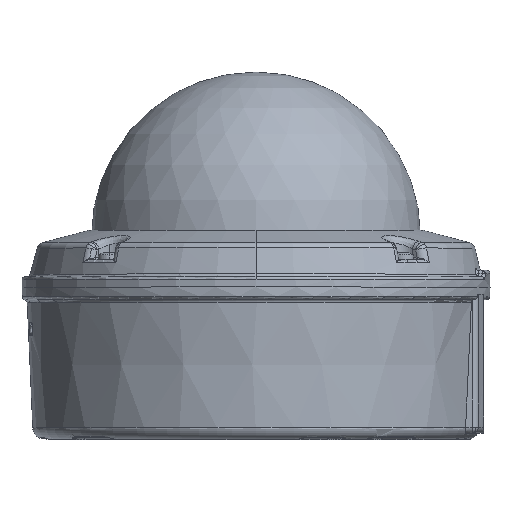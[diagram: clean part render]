
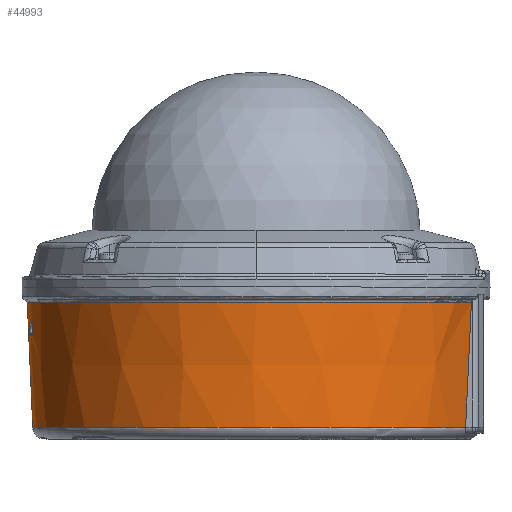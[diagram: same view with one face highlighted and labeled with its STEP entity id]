
A CAD part, top view. The second image highlights one B-rep face of the part: STEP entity #44993.
In plain terms, the highlighted conical face has half-angle 2.5 degrees and reference radius 73.495 mm.
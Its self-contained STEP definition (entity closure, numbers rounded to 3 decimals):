
#31260=CARTESIAN_POINT('',(-68.174,27.,25.));
#31261=CARTESIAN_POINT('',(-68.384,22.494,25.));
#31262=CARTESIAN_POINT('',(-68.802,13.483,25.));
#31263=CARTESIAN_POINT('',(-69.43,-0.032,25.));
#31264=CARTESIAN_POINT('',(-69.848,-9.04,25.));
#31265=CARTESIAN_POINT('',(-70.057,-13.544,25.));
#31267=DIRECTION('',(-0.044,0.999,0.));
#31268=VECTOR('',#31267,40.757);
#31269=CARTESIAN_POINT('',(74.384,-13.544,0.));
#31270=LINE('',#31269,#31268);
#31271=CARTESIAN_POINT('',(73.005,-6.956,
12.671));
#31272=CARTESIAN_POINT('',(72.985,-6.956,
12.783));
#31273=CARTESIAN_POINT('',(72.945,-6.939,
13.004));
#31274=CARTESIAN_POINT('',(72.882,-6.856,
13.336));
#31275=CARTESIAN_POINT('',(72.817,-6.718,
13.651));
#31276=CARTESIAN_POINT('',(72.755,-6.531,
13.937));
#31277=CARTESIAN_POINT('',(72.697,-6.301,
14.185));
#31278=CARTESIAN_POINT('',(72.644,-6.035,
14.389));
#31279=CARTESIAN_POINT('',(72.6,-5.742,
14.545));
#31280=CARTESIAN_POINT('',(72.565,-5.429,
14.65));
#31281=CARTESIAN_POINT('',(72.54,-5.106,
14.702));
#31282=CARTESIAN_POINT('',(72.526,-4.779,
14.699));
#31283=CARTESIAN_POINT('',(72.523,-4.458,
14.644));
#31284=CARTESIAN_POINT('',(72.531,-4.149,
14.536));
#31285=CARTESIAN_POINT('',(72.55,-3.861,
14.378));
#31286=CARTESIAN_POINT('',(72.579,-3.601,
14.174));
#31287=CARTESIAN_POINT('',(72.616,-3.375,
13.928));
#31288=CARTESIAN_POINT('',(72.662,-3.191,
13.643));
#31289=CARTESIAN_POINT('',(72.714,-3.056,
13.332));
#31290=CARTESIAN_POINT('',(72.77,-2.974,
13.003));
#31291=CARTESIAN_POINT('',(72.808,-2.956,
12.782));
#31292=CARTESIAN_POINT('',(72.827,-2.956,
12.671));
#31294=CARTESIAN_POINT('',(73.529,-2.956,
7.603));
#31295=CARTESIAN_POINT('',(73.541,-2.956,
7.492));
#31296=CARTESIAN_POINT('',(73.564,-2.974,
7.272));
#31297=CARTESIAN_POINT('',(73.599,-3.055,
6.943));
#31298=CARTESIAN_POINT('',(73.634,-3.191,
6.63));
#31299=CARTESIAN_POINT('',(73.667,-3.376,
6.345));
#31300=CARTESIAN_POINT('',(73.698,-3.603,
6.097));
#31301=CARTESIAN_POINT('',(73.726,-3.867,
5.892));
#31302=CARTESIAN_POINT('',(73.751,-4.16,
5.733));
#31303=CARTESIAN_POINT('',(73.773,-4.474,
5.626));
#31304=CARTESIAN_POINT('',(73.792,-4.8,
5.572));
#31305=CARTESIAN_POINT('',(73.806,-5.131,
5.574));
#31306=CARTESIAN_POINT('',(73.816,-5.456,
5.63));
#31307=CARTESIAN_POINT('',(73.821,-5.768,
5.74));
#31308=CARTESIAN_POINT('',(73.821,-6.058,
5.9));
#31309=CARTESIAN_POINT('',(73.816,-6.319,
6.106));
#31310=CARTESIAN_POINT('',(73.805,-6.544,
6.354));
#31311=CARTESIAN_POINT('',(73.788,-6.726,
6.639));
#31312=CARTESIAN_POINT('',(73.765,-6.859,
6.949));
#31313=CARTESIAN_POINT('',(73.737,-6.939,
7.275));
#31314=CARTESIAN_POINT('',(73.716,-6.956,
7.493));
#31315=CARTESIAN_POINT('',(73.705,-6.956,
7.602));
#31336=CARTESIAN_POINT('',(0.,-13.544,0.));
#31337=DIRECTION('',(0.,-1.,0.));
#31338=DIRECTION('',(1.,0.,0.));
#31339=AXIS2_PLACEMENT_3D('',#31336,#31337,#31338);
#32821=CARTESIAN_POINT('',(0.,27.174,0.));
#32822=DIRECTION('',(0.,1.,0.));
#32823=DIRECTION('',(-0.939,0.,0.344));
#32824=AXIS2_PLACEMENT_3D('',#32821,#32822,#32823);
#32904=CARTESIAN_POINT('',(-68.174,27.,25.));
#32905=CARTESIAN_POINT('',(-68.173,27.019,25.));
#32906=CARTESIAN_POINT('',(-68.172,27.058,
24.999));
#32907=CARTESIAN_POINT('',(-68.17,27.116,
24.997));
#32908=CARTESIAN_POINT('',(-68.169,27.155,
24.994));
#32909=CARTESIAN_POINT('',(-68.169,27.174,
24.992));
#37935=CARTESIAN_POINT('',(0.,-2.956,0.));
#37936=DIRECTION('',(0.,-1.,0.));
#37937=DIRECTION('',(0.995,0.,0.103));
#37938=AXIS2_PLACEMENT_3D('',#37935,#37936,#37937);
#37960=CARTESIAN_POINT('',(0.,-6.956,0.));
#37961=DIRECTION('',(0.,1.,0.));
#37962=DIRECTION('',(0.985,0.,0.171));
#37963=AXIS2_PLACEMENT_3D('',#37960,#37961,#37962);
#42681=VERTEX_POINT('',#31260);
#42682=VERTEX_POINT('',#31265);
#42683=VERTEX_POINT('',#32909);
#42684=CARTESIAN_POINT('',(72.606,27.174,0.));
#42685=VERTEX_POINT('',#42684);
#42686=CARTESIAN_POINT('',(74.384,-13.544,0.));
#42687=VERTEX_POINT('',#42686);
#42688=CARTESIAN_POINT('',(73.005,-6.956,
12.671));
#42689=CARTESIAN_POINT('',(73.705,-6.956,
7.602));
#42690=VERTEX_POINT('',#42688);
#42691=VERTEX_POINT('',#42689);
#42692=VERTEX_POINT('',#31294);
#42693=CARTESIAN_POINT('',(72.827,-2.956,
12.671));
#42694=VERTEX_POINT('',#42693);
#44966=CARTESIAN_POINT('',(0.,6.815,0.));
#44967=DIRECTION('',(0.,-1.,0.));
#44968=DIRECTION('',(-1.,0.,0.));
#44969=AXIS2_PLACEMENT_3D('',#44966,#44967,#44968);
#44970=CONICAL_SURFACE('',#44969,73.495,2.5);
#44972=ORIENTED_EDGE('',*,*,#44971,.T.);
#44974=ORIENTED_EDGE('',*,*,#44973,.F.);
#44976=ORIENTED_EDGE('',*,*,#44975,.T.);
#44978=ORIENTED_EDGE('',*,*,#44977,.T.);
#44980=ORIENTED_EDGE('',*,*,#44979,.F.);
#44981=EDGE_LOOP('',(#44972,#44974,#44976,#44978,#44980));
#44982=FACE_OUTER_BOUND('',#44981,.F.);
#44984=ORIENTED_EDGE('',*,*,#44983,.F.);
#44986=ORIENTED_EDGE('',*,*,#44985,.T.);
#44988=ORIENTED_EDGE('',*,*,#44987,.F.);
#44990=ORIENTED_EDGE('',*,*,#44989,.T.);
#44991=EDGE_LOOP('',(#44984,#44986,#44988,#44990));
#44992=FACE_BOUND('',#44991,.F.);
#31266=B_SPLINE_CURVE_WITH_KNOTS('',3,(#31260,#31261,#31262,#31263,#31264,
#31265),.UNSPECIFIED.,.F.,.F.,(4,1,1,4),(0.,0.333,
0.667,1.),.UNSPECIFIED.);
#31293=B_SPLINE_CURVE_WITH_KNOTS('',3,(#31271,#31272,#31273,#31274,#31275,
#31276,#31277,#31278,#31279,#31280,#31281,#31282,#31283,#31284,#31285,#31286,
#31287,#31288,#31289,#31290,#31291,#31292),.UNSPECIFIED.,.F.,.F.,(4,1,1,1,1,1,1,
1,1,1,1,1,1,1,1,1,1,1,1,4),(0.,0.053,0.105,
0.158,0.211,0.263,0.316,
0.368,0.421,0.474,0.526,
0.579,0.632,0.684,0.737,
0.789,0.842,0.895,0.947,1.),
.UNSPECIFIED.);
#31316=B_SPLINE_CURVE_WITH_KNOTS('',3,(#31294,#31295,#31296,#31297,#31298,
#31299,#31300,#31301,#31302,#31303,#31304,#31305,#31306,#31307,#31308,#31309,
#31310,#31311,#31312,#31313,#31314,#31315),.UNSPECIFIED.,.F.,.F.,(4,1,1,1,1,1,1,
1,1,1,1,1,1,1,1,1,1,1,1,4),(0.,0.053,0.105,
0.158,0.211,0.263,0.316,
0.368,0.421,0.474,0.526,
0.579,0.632,0.684,0.737,
0.789,0.842,0.895,0.947,1.),
.UNSPECIFIED.);
#31340=CIRCLE('',#31339,74.384);
#32825=CIRCLE('',#32824,72.606);
#32910=B_SPLINE_CURVE_WITH_KNOTS('',3,(#32904,#32905,#32906,#32907,#32908,
#32909),.UNSPECIFIED.,.F.,.F.,(4,1,1,4),(0.,0.333,
0.667,1.),.UNSPECIFIED.);
#37939=CIRCLE('',#37938,73.921);
#37964=CIRCLE('',#37963,74.096);
#44971=EDGE_CURVE('',#42687,#42682,#31340,.T.);
#44973=EDGE_CURVE('',#42681,#42682,#31266,.T.);
#44975=EDGE_CURVE('',#42681,#42683,#32910,.T.);
#44977=EDGE_CURVE('',#42683,#42685,#32825,.T.);
#44979=EDGE_CURVE('',#42687,#42685,#31270,.T.);
#44983=EDGE_CURVE('',#42690,#42694,#31293,.T.);
#44985=EDGE_CURVE('',#42690,#42691,#37964,.T.);
#44987=EDGE_CURVE('',#42692,#42691,#31316,.T.);
#44989=EDGE_CURVE('',#42692,#42694,#37939,.T.);
#44993=ADVANCED_FACE('',(#44982,#44992),#44970,.T.);
